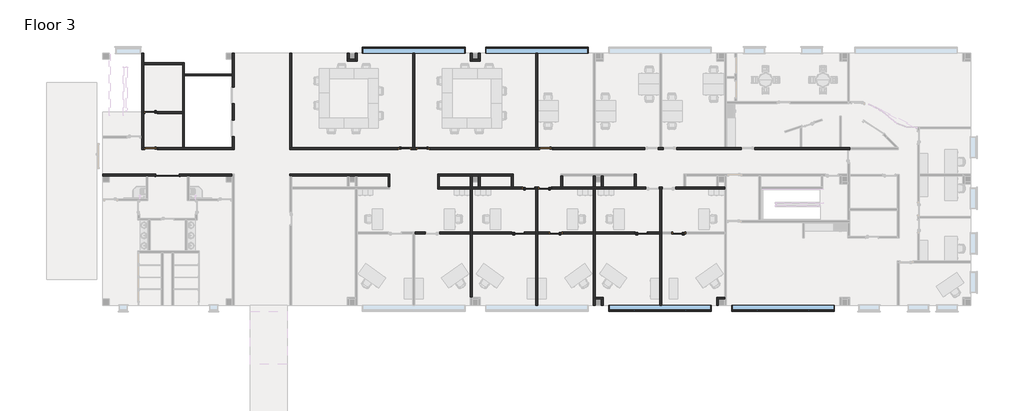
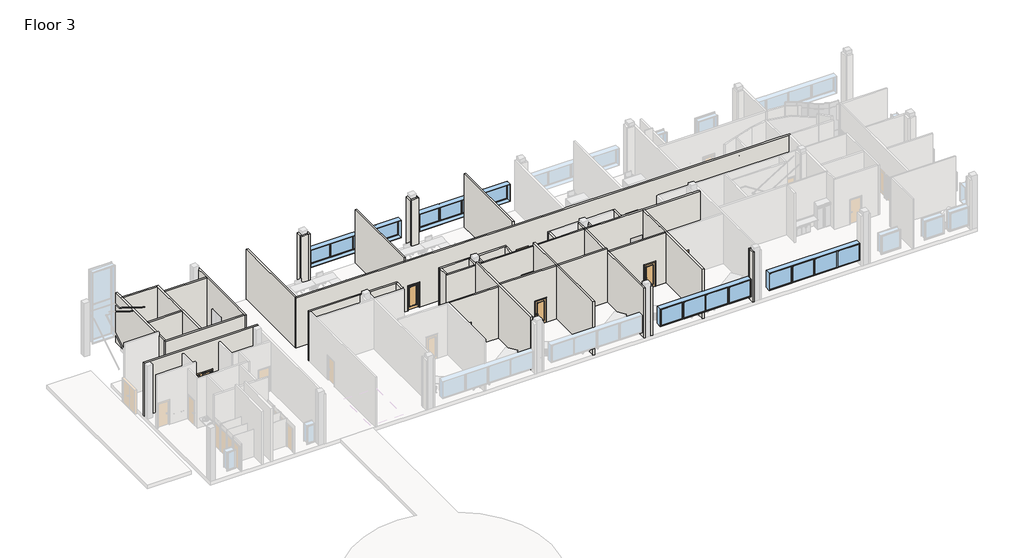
# One storey, part 2 of 6: 42 walls, 12 doors, 4 windows.
"""IFC4 building model written with IfcOpenShell, lengths in millimetres."""

from ifc_helpers import new_model, si_unit, frame, origin, place, context, project, spatial, polyline, outline, extrude, faceted_brep, transform, mapped, element, save
from components import door_f1125a27, door_36f17018, door_4cfbdd5f, door_4a7c4c71, window_casement_multi_sash_horizontal_25_x_5ft_0e5d08e3

model = new_model("IFC4")

# Units and contexts
model_context = context("Model", 3, world=origin())
ifc_project = project(units=[si_unit("LENGTHUNIT", "METRE", prefix="MILLI")], contexts=[model_context])

# Site, building, storey
site = spatial("IfcSite", under=ifc_project)
building = spatial("IfcBuilding", under=site)
storey = spatial("IfcBuildingStorey", under=building, Name="Floor 3", Elevation=10210.8)

# Doors
placement = place(None, origin())
door_shape = door_f1125a27(model_context)
element("IfcDoor", 1, ObjectType="Dbl Acting Dbl Glass 1 : 68\" x 84\"", at=placement, inside=storey, context=model_context, shape_type="MappedRepresentation", body=[
    mapped(door_shape, transform((1836.7692024, 48316.361889, 10210.8), x_axis=(-1.0, 0.0, 0.0), y_axis=(0.0, -1.0, 0.0), z_axis=(0.0, 0.0, 1.0))),
])
door_2_shape = door_36f17018(model_context)
element("IfcDoor", 2, ObjectType="Door-Passage-Single-Flush : 36\" x 84\"", at=placement, inside=storey, context=model_context, shape_type="MappedRepresentation", body=[
    mapped(door_2_shape, transform((617.5692024, 50253.111889, 10210.8), x_axis=(-1.0, 0.0, 0.0), y_axis=(0.0, -1.0, 0.0), z_axis=(0.0, 0.0, 1.0))),
])
element("IfcDoor", 3, ObjectType="Door-Passage-Single-Flush : 36\" x 84\"", at=placement, inside=storey, context=model_context, shape_type="MappedRepresentation", body=[
    mapped(door_2_shape, transform((617.5692024, 52945.511889, 10210.8), x_axis=(-1.0, 0.0, 0.0), y_axis=(0.0, -1.0, 0.0), z_axis=(0.0, 0.0, 1.0))),
])
element("IfcDoor", 4, ObjectType="Door-Passage-Single-Flush : 36\" x 84\"", at=placement, inside=storey, context=model_context, shape_type="MappedRepresentation", body=[
    mapped(door_2_shape, transform((29954.5692024, 50253.111889, 10210.8), x_axis=(-1.0, 0.0, 0.0), y_axis=(0.0, -1.0, 0.0), z_axis=(0.0, 0.0, 1.0))),
])
door_3_shape = door_4cfbdd5f(model_context)
element("IfcDoor", 5, ObjectType="Door-Passage-Single-Full_Lite : 36\" x 84\"", at=placement, inside=storey, context=model_context, shape_type="MappedRepresentation", body=[
    mapped(door_3_shape, transform((37015.7692024, 43985.661889, 10210.8), x_axis=(1.0, 0.0, 0.0), y_axis=(0.0, 1.0, 0.0), z_axis=(0.0, 0.0, 1.0))),
])
element("IfcDoor", 6, ObjectType="Door-Passage-Single-Full_Lite : 36\" x 84\"", at=placement, inside=storey, context=model_context, shape_type="MappedRepresentation", body=[
    mapped(door_3_shape, transform((27871.7692024, 43985.661889, 10210.8), x_axis=(1.0, 0.0, 0.0), y_axis=(0.0, 1.0, 0.0), z_axis=(0.0, 0.0, 1.0))),
])
element("IfcDoor", 7, ObjectType="Door-Passage-Single-Full_Lite : 36\" x 84\"", at=placement, inside=storey, context=model_context, shape_type="MappedRepresentation", body=[
    mapped(door_3_shape, transform((20810.5692024, 50253.111889, 10210.8), x_axis=(-1.0, 0.0, 0.0), y_axis=(0.0, -1.0, 0.0), z_axis=(0.0, 0.0, 1.0))),
])
element("IfcDoor", 8, ObjectType="Door-Passage-Single-Full_Lite : 36\" x 84\"", at=placement, inside=storey, context=model_context, shape_type="MappedRepresentation", body=[
    mapped(door_3_shape, transform((28659.1692024, 47338.461889, 10210.8), x_axis=(1.0, 0.0, 0.0), y_axis=(0.0, 1.0, 0.0), z_axis=(0.0, 0.0, 1.0))),
])
door_4_shape = door_4a7c4c71(model_context)
element("IfcDoor", 9, ObjectType="Door-Passage-Single-Full_Lite : 36\" x 84\"", at=placement, inside=storey, context=model_context, shape_type="MappedRepresentation", body=[
    mapped(door_4_shape, transform((39809.7692024, 43985.661889, 10210.8), x_axis=(-1.0, 0.0, 0.0), y_axis=(0.0, -1.0, 0.0), z_axis=(0.0, 0.0, 1.0))),
])
element("IfcDoor", 10, ObjectType="Door-Passage-Single-Full_Lite : 36\" x 84\"", at=placement, inside=storey, context=model_context, shape_type="MappedRepresentation", body=[
    mapped(door_4_shape, transform((30665.7692024, 43985.661889, 10210.8), x_axis=(-1.0, 0.0, 0.0), y_axis=(0.0, -1.0, 0.0), z_axis=(0.0, 0.0, 1.0))),
])
element("IfcDoor", 11, ObjectType="Door-Passage-Single-Full_Lite : 36\" x 84\"", at=placement, inside=storey, context=model_context, shape_type="MappedRepresentation", body=[
    mapped(door_4_shape, transform((19438.9692024, 50253.111889, 10210.8), x_axis=(1.0, 0.0, 0.0), y_axis=(0.0, 1.0, 0.0), z_axis=(0.0, 0.0, 1.0))),
])
element("IfcDoor", 12, ObjectType="Door-Passage-Single-Full_Lite : 36\" x 84\"", at=placement, inside=storey, context=model_context, shape_type="MappedRepresentation", body=[
    mapped(door_4_shape, transform((29878.3692024, 47338.461889, 10210.8), x_axis=(-1.0, 0.0, 0.0), y_axis=(0.0, -1.0, 0.0), z_axis=(0.0, 0.0, 1.0))),
])

# Walls
element("IfcWall", 13, ObjectType="Interior - 5 1/2\" Partition (1-hr)", at=placement, inside=storey, context=model_context, shape_type="Brep", body=[
    faceted_brep([(973.1692024, 48360.811889, 12344.4), (973.1692024, 48360.811889, 10210.8), (-2965.7977165, 48360.811889, 10210.8), (-2965.7977165, 48360.811889, 14935.2), (6637.3692024, 48360.811889, 14935.2), (6637.3692024, 48360.811889, 14630.4), (6637.3692024, 48360.811889, 10210.8), (2700.3692024, 48360.811889, 10210.8), (2700.3692024, 48360.811889, 12344.4), (-2965.7977165, 48221.111889, 10210.8), (242.9192024, 48221.111889, 10210.8), (382.6192024, 48221.111889, 10210.8), (973.1692024, 48221.111889, 10210.8), (973.1692024, 48221.111889, 12344.4), (2700.3692024, 48221.111889, 12344.4), (2700.3692024, 48221.111889, 10210.8), (3290.9192024, 48221.111889, 10210.8), (3430.6192024, 48221.111889, 10210.8), (6637.3692024, 48221.111889, 10210.8), (6637.3692024, 48221.111889, 14935.2), (-2965.7977165, 48221.111889, 14935.2)], [[[0, 1, 2, 3, 4, 5, 6, 7, 8]], [[9, 10, 11, 12, 13, 14, 15, 16, 17, 18, 19, 20]], [[2, 1, 12, 11, 10, 9]], [[7, 6, 18, 17, 16, 15]], [[4, 3, 20, 19]], [[6, 5, 4, 19, 18]], [[3, 2, 9, 20]], [[13, 12, 1, 0]], [[14, 13, 0, 8]], [[15, 14, 8, 7]]]),
])
element("IfcWall", 14, ObjectType="Interior - 5 1/2\" Partition (1-hr)", at=placement, inside=storey, context=model_context, shape_type="Brep", body=[
    faceted_brep([(6637.3692024, 53605.911889, 12369.8), (6637.3692024, 53605.911889, 10210.8), (6637.3692024, 52399.411889, 10210.8), (6637.3692024, 52399.411889, 12369.8), (6637.3692024, 51167.511889, 12369.8), (6637.3692024, 51167.511889, 10210.8), (6637.3692024, 50329.311889, 10210.8), (6637.3692024, 50189.611889, 10210.8), (6637.3692024, 50189.611889, 14630.4), (6637.3692024, 50329.311889, 14630.4), (6637.3692024, 55676.011889, 14630.4), (6637.3692024, 55815.711889, 14630.4), (6637.3692024, 57366.699389, 14630.4), (6637.3692024, 57366.699389, 10210.8), (6637.3692024, 55815.711889, 10210.8), (6637.3692024, 55676.011889, 10210.8), (6637.3692024, 54837.811889, 10210.8), (6637.3692024, 54837.811889, 12369.8), (6777.0692024, 52399.411889, 10210.8), (6777.0692024, 53605.911889, 10210.8), (6777.0692024, 53605.911889, 12369.8), (6777.0692024, 54837.811889, 12369.8), (6777.0692024, 54837.811889, 10210.8), (6777.0692024, 57366.699389, 10210.8), (6777.0692024, 57366.699389, 14630.4), (6777.0692024, 50189.611889, 14630.4), (6777.0692024, 50189.611889, 10210.8), (6777.0692024, 51167.511889, 10210.8), (6777.0692024, 51167.511889, 12369.8), (6777.0692024, 52399.411889, 12369.8)], [[[0, 1, 2, 3, 4, 5, 6, 7, 8, 9, 10, 11, 12, 13, 14, 15, 16, 17]], [[18, 19, 20, 21, 22, 23, 24, 25, 26, 27, 28, 29]], [[7, 6, 5, 27, 26]], [[2, 1, 19, 18]], [[16, 15, 14, 13, 23, 22]], [[8, 7, 26, 25]], [[13, 12, 24, 23]], [[12, 11, 10, 9, 8, 25, 24]], [[28, 27, 5, 4]], [[29, 28, 4, 3]], [[18, 29, 3, 2]], [[20, 19, 1, 0]], [[21, 20, 0, 17]], [[22, 21, 17, 16]]]),
])
element("IfcWall", 15, ObjectType="Interior - 5 1/2\" Partition (1-hr)", at=placement, inside=storey, context=model_context, shape_type="Brep", body=[
    faceted_brep([(109.5692024, 50329.311889, 12446.0), (109.5692024, 50329.311889, 10210.8), (77.8192024, 50329.311889, 10210.8), (-61.8807976, 50329.311889, 10210.8), (-61.8807976, 50329.311889, 14630.4), (77.8192024, 50329.311889, 14630.4), (2954.3692024, 50329.311889, 14630.4), (3094.0692024, 50329.311889, 14630.4), (6637.3692024, 50329.311889, 14630.4), (6637.3692024, 50329.311889, 10210.8), (3094.0692024, 50329.311889, 10210.8), (2954.3692024, 50329.311889, 10210.8), (1125.5692024, 50329.311889, 10210.8), (1125.5692024, 50329.311889, 12446.0), (-61.8807976, 50189.611889, 10210.8), (109.5692024, 50189.611889, 10210.8), (109.5692024, 50189.611889, 12446.0), (1125.5692024, 50189.611889, 12446.0), (1125.5692024, 50189.611889, 10210.8), (6637.3692024, 50189.611889, 10210.8), (6637.3692024, 50189.611889, 14630.4), (-61.8807976, 50189.611889, 14630.4)], [[[0, 1, 2, 3, 4, 5, 6, 7, 8, 9, 10, 11, 12, 13]], [[14, 15, 16, 17, 18, 19, 20, 21]], [[3, 2, 1, 15, 14]], [[12, 11, 10, 9, 19, 18]], [[9, 8, 20, 19]], [[4, 3, 14, 21]], [[8, 7, 6, 5, 4, 21, 20]], [[16, 15, 1, 0]], [[17, 16, 0, 13]], [[18, 17, 13, 12]]]),
])
element("IfcWall", 16, ObjectType="Interior - 5 1/2\" Partition (1-hr)", at=placement, inside=storey, context=model_context, shape_type="Brep", body=[
    faceted_brep([(77.8192024, 50329.311889, 10210.8), (77.8192024, 52882.011889, 10210.8), (77.8192024, 53021.711889, 10210.8), (77.8192024, 56514.211889, 10210.8), (77.8192024, 56653.911889, 10210.8), (77.8192024, 57366.699389, 10210.8), (77.8192024, 57366.699389, 14630.4), (77.8192024, 56653.911889, 14630.4), (77.8192024, 56514.211889, 14630.4), (77.8192024, 53021.711889, 14630.4), (77.8192024, 52882.011889, 14630.4), (77.8192024, 50329.311889, 14630.4), (-61.8807976, 50329.311889, 10210.8), (-61.8807976, 50329.311889, 14630.4), (-61.8807976, 52970.911889, 14630.4), (-61.8807976, 56653.911889, 14630.4), (-61.8807976, 57366.699389, 14630.4), (-61.8807976, 57366.699389, 10210.8), (-61.8807976, 51192.911889, 10210.8), (-61.8807976, 51053.211889, 10210.8)], [[[0, 1, 2, 3, 4, 5, 6, 7, 8, 9, 10, 11]], [[12, 13, 14, 15, 16, 17, 18, 19]], [[5, 4, 3, 2, 1, 0, 12, 19, 18, 17]], [[0, 11, 13, 12]], [[6, 5, 17, 16]], [[7, 6, 16, 15]], [[11, 10, 9, 8, 7, 15, 14, 13]]]),
])
element("IfcWall", 17, ObjectType="Interior - 5 1/2\" Partition (1-hr)", at=placement, inside=storey, context=model_context, shape_type="Brep", body=[
    faceted_brep([(3094.0692024, 50329.311889, 10210.8), (3094.0692024, 55676.011889, 10210.8), (3094.0692024, 55815.711889, 10210.8), (3094.0692024, 56653.911889, 10210.8), (3094.0692024, 56653.911889, 14630.4), (3094.0692024, 55815.711889, 14630.4), (3094.0692024, 55676.011889, 14630.4), (3094.0692024, 50329.311889, 14630.4), (2954.3692024, 50329.311889, 10210.8), (2954.3692024, 50329.311889, 14630.4), (2954.3692024, 52882.011889, 14630.4), (2954.3692024, 53021.711889, 14630.4), (2954.3692024, 56514.211889, 14630.4), (2954.3692024, 56653.911889, 14630.4), (2954.3692024, 56653.911889, 10210.8), (2954.3692024, 56514.211889, 10210.8), (2954.3692024, 53021.711889, 10210.8), (2954.3692024, 52882.011889, 10210.8)], [[[0, 1, 2, 3, 4, 5, 6, 7]], [[8, 9, 10, 11, 12, 13, 14, 15, 16, 17]], [[3, 2, 1, 0, 8, 17, 16, 15, 14]], [[4, 3, 14, 13]], [[0, 7, 9, 8]], [[7, 6, 5, 4, 13, 12, 11, 10, 9]]]),
])
element("IfcWall", 18, ObjectType="Interior - 5 1/2\" Partition (1-hr)", at=placement, inside=storey, context=model_context, shape_type="SweptSolid", body=[
    extrude(outline(polyline([(77.8192024, 56653.911889), (2954.3692024, 56653.911889), (2954.3692024, 56514.211889), (77.8192024, 56514.211889), (77.8192024, 56653.911889)])), frame((0.0, 0.0, 10210.8), z_axis=(0.0, 0.0, 1.0), x_axis=(1.0, 0.0, 0.0)), (0.0, 0.0, 1.0), 4419.6),
])
element("IfcWall", 19, ObjectType="Interior - 5 1/2\" Partition (1-hr)", at=placement, inside=storey, context=model_context, shape_type="SweptSolid", body=[
    extrude(outline(polyline([(6637.3692024, 55676.011889), (3094.0692024, 55676.011889), (3094.0692024, 55815.711889), (6637.3692024, 55815.711889), (6637.3692024, 55676.011889)])), frame((0.0, 0.0, 10210.8), z_axis=(0.0, 0.0, 1.0), x_axis=(1.0, 0.0, 0.0)), (0.0, 0.0, 1.0), 4419.6),
])
element("IfcWall", 20, ObjectType="Interior - 5 1/2\" Partition (1-hr)", at=placement, inside=storey, context=model_context, shape_type="SweptSolid", body=[
    extrude(outline(polyline([(10210.8, 77.8192024), (10210.8, 109.5692024), (12446.0, 109.5692024), (12446.0, 1125.5692024), (10210.8, 1125.5692024), (10210.8, 2954.3692024), (14630.4, 2954.3692024), (14630.4, 77.8192024), (10210.8, 77.8192024)])), frame((0.0, 52882.011889, 0.0), z_axis=(0.0, 1.0, 0.0), x_axis=(0.0, 0.0, 1.0)), (0.0, 0.0, 1.0), 139.7),
])
element("IfcWall", 21, ObjectType="Interior - 5 1/2\" Partition (1-hr)", at=placement, inside=storey, context=model_context, shape_type="Brep", body=[
    faceted_brep([(10910.9192024, 48221.111889, 10210.8), (11050.6192024, 48221.111889, 10210.8), (15184.4692024, 48221.111889, 10210.8), (15324.1692024, 48221.111889, 10210.8), (15781.3692024, 48221.111889, 10210.8), (15921.0692024, 48221.111889, 10210.8), (18219.7692024, 48221.111889, 10210.8), (18359.4692024, 48221.111889, 10210.8), (18359.4692024, 48221.111889, 14630.4), (18219.7692024, 48221.111889, 14630.4), (15921.0692024, 48221.111889, 14630.4), (15781.3692024, 48221.111889, 14630.4), (15324.1692024, 48221.111889, 14630.4), (15184.4692024, 48221.111889, 14630.4), (11050.6192024, 48221.111889, 14630.4), (10910.9192024, 48221.111889, 14630.4), (10910.9192024, 48360.811889, 10210.8), (10910.9192024, 48360.811889, 14630.4), (18359.4692024, 48360.811889, 14630.4), (18359.4692024, 48360.811889, 10210.8)], [[[0, 1, 2, 3, 4, 5, 6, 7, 8, 9, 10, 11, 12, 13, 14, 15]], [[16, 17, 18, 19]], [[7, 6, 5, 4, 3, 2, 1, 0, 16, 19]], [[0, 15, 17, 16]], [[8, 7, 19, 18]], [[15, 14, 13, 12, 11, 10, 9, 8, 18, 17]]]),
])
element("IfcWall", 22, ObjectType="Interior - 5 1/2\" Partition (1-hr)", at=placement, inside=storey, context=model_context, shape_type="Brep", body=[
    faceted_brep([(29446.5692024, 50329.311889, 12446.0), (29446.5692024, 50329.311889, 10210.8), (29338.6192024, 50329.311889, 10210.8), (29198.9192024, 50329.311889, 10210.8), (21318.5692024, 50329.311889, 10210.8), (21318.5692024, 50329.311889, 12446.0), (20302.5692024, 50329.311889, 12446.0), (20302.5692024, 50329.311889, 10210.8), (20194.6192024, 50329.311889, 10210.8), (20054.9192024, 50329.311889, 10210.8), (19946.9692024, 50329.311889, 10210.8), (19946.9692024, 50329.311889, 12446.0), (18930.9692024, 50329.311889, 12446.0), (18930.9692024, 50329.311889, 10210.8), (11050.6192024, 50329.311889, 10210.8), (10910.9192024, 50329.311889, 10210.8), (10910.9192024, 50329.311889, 14630.4), (11050.6192024, 50329.311889, 14630.4), (33472.4692024, 50329.311889, 14630.4), (33612.1692024, 50329.311889, 14630.4), (38393.7192024, 50329.311889, 14630.4), (38533.4192024, 50329.311889, 14630.4), (43213.3692024, 50329.311889, 14630.4), (43353.0692024, 50329.311889, 14630.4), (48815.6567024, 50329.311889, 14630.4), (48939.4817024, 50329.311889, 14630.4), (51768.4067024, 50329.311889, 14630.4), (51892.2317024, 50329.311889, 14630.4), (52497.0692024, 50329.311889, 14630.4), (52497.0692024, 50329.311889, 10210.8), (51892.2317024, 50329.311889, 10210.8), (51768.4067024, 50329.311889, 10210.8), (48939.4817024, 50329.311889, 10210.8), (48815.6567024, 50329.311889, 10210.8), (45467.6192024, 50329.311889, 10210.8), (45467.6192024, 50329.311889, 12446.0), (44451.6192024, 50329.311889, 12446.0), (44451.6192024, 50329.311889, 10210.8), (43353.0692024, 50329.311889, 10210.8), (43213.3692024, 50329.311889, 10210.8), (39657.3692024, 50329.311889, 10210.8), (39657.3692024, 50329.311889, 12446.0), (38641.3692024, 50329.311889, 12446.0), (38641.3692024, 50329.311889, 10210.8), (38533.4192024, 50329.311889, 10210.8), (38393.7192024, 50329.311889, 10210.8), (38285.7692024, 50329.311889, 10210.8), (38285.7692024, 50329.311889, 12446.0), (37269.7692024, 50329.311889, 12446.0), (37269.7692024, 50329.311889, 10210.8), (33612.1692024, 50329.311889, 10210.8), (33472.4692024, 50329.311889, 10210.8), (30462.5692024, 50329.311889, 10210.8), (30462.5692024, 50329.311889, 12446.0), (21318.5692024, 50189.611889, 10210.8), (29446.5692024, 50189.611889, 10210.8), (29446.5692024, 50189.611889, 12446.0), (30462.5692024, 50189.611889, 12446.0), (30462.5692024, 50189.611889, 10210.8), (37269.7692024, 50189.611889, 10210.8), (37269.7692024, 50189.611889, 12446.0), (38285.7692024, 50189.611889, 12446.0), (38285.7692024, 50189.611889, 10210.8), (38641.3692024, 50189.611889, 10210.8), (38641.3692024, 50189.611889, 12446.0), (39657.3692024, 50189.611889, 12446.0), (39657.3692024, 50189.611889, 10210.8), (44451.6192024, 50189.611889, 10210.8), (44451.6192024, 50189.611889, 12446.0), (45467.6192024, 50189.611889, 12446.0), (45467.6192024, 50189.611889, 10210.8), (52357.3692024, 50189.611889, 10210.8), (52497.0692024, 50189.611889, 10210.8), (52497.0692024, 50189.611889, 14630.4), (52357.3692024, 50189.611889, 14630.4), (10910.9192024, 50189.611889, 14630.4), (10910.9192024, 50189.611889, 10210.8), (18930.9692024, 50189.611889, 10210.8), (18930.9692024, 50189.611889, 12446.0), (19946.9692024, 50189.611889, 12446.0), (19946.9692024, 50189.611889, 10210.8), (20302.5692024, 50189.611889, 10210.8), (20302.5692024, 50189.611889, 12446.0), (21318.5692024, 50189.611889, 12446.0), (52497.0692024, 50205.486889, 10210.8), (52497.0692024, 50205.486889, 14630.4)], [[[0, 1, 2, 3, 4, 5, 6, 7, 8, 9, 10, 11, 12, 13, 14, 15, 16, 17, 18, 19, 20, 21, 22, 23, 24, 25, 26, 27, 28, 29, 30, 31, 32, 33, 34, 35, 36, 37, 38, 39, 40, 41, 42, 43, 44, 45, 46, 47, 48, 49, 50, 51, 52, 53]], [[54, 55, 56, 57, 58, 59, 60, 61, 62, 63, 64, 65, 66, 67, 68, 69, 70, 71, 72, 73, 74, 75, 76, 77, 78, 79, 80, 81, 82, 83]], [[46, 45, 44, 43, 63, 62]], [[10, 9, 8, 7, 81, 80]], [[40, 39, 38, 37, 67, 66]], [[34, 33, 32, 31, 30, 29, 84, 72, 71, 70]], [[77, 76, 15, 14, 13]], [[4, 3, 2, 1, 55, 54]], [[52, 51, 50, 49, 59, 58]], [[76, 75, 16, 15]], [[75, 74, 73, 85, 28, 27, 26, 25, 24, 23, 22, 21, 20, 19, 18, 17, 16]], [[73, 72, 84, 29, 28, 85]], [[47, 46, 62, 61]], [[48, 47, 61, 60]], [[49, 48, 60, 59]], [[64, 63, 43, 42]], [[65, 64, 42, 41]], [[66, 65, 41, 40]], [[68, 67, 37, 36]], [[69, 68, 36, 35]], [[70, 69, 35, 34]], [[11, 10, 80, 79]], [[12, 11, 79, 78]], [[13, 12, 78, 77]], [[82, 81, 7, 6]], [[83, 82, 6, 5]], [[54, 83, 5, 4]], [[56, 55, 1, 0]], [[57, 56, 0, 53]], [[58, 57, 53, 52]]]),
])
element("IfcWall", 23, ObjectType="Interior - 5 1/2\" Partition (1-hr)", at=placement, inside=storey, context=model_context, shape_type="SweptSolid", body=[
    extrude(outline(polyline([(11050.6192024, 57366.699389), (11050.6192024, 50329.311889), (10910.9192024, 50329.311889), (10910.9192024, 57366.699389), (11050.6192024, 57366.699389)])), frame((0.0, 0.0, 10210.8), z_axis=(0.0, 0.0, 1.0), x_axis=(1.0, 0.0, 0.0)), (0.0, 0.0, 1.0), 4419.6),
])
element("IfcWall", 24, ObjectType="Interior - 5 1/2\" Partition (1-hr)", at=placement, inside=storey, context=model_context, shape_type="Brep", body=[
    faceted_brep([(43213.3692024, 39216.811889, 10210.8), (42616.4692024, 39216.811889, 10210.8), (42616.4692024, 39216.811889, 14630.4), (43213.3692024, 39216.811889, 14630.4), (43213.3692024, 39077.111889, 10210.8), (43213.3692024, 39077.111889, 14630.4), (42756.1692024, 39077.111889, 14630.4), (42616.4692024, 39077.111889, 14630.4), (42616.4692024, 39077.111889, 10210.8), (42756.1692024, 39077.111889, 10210.8)], [[[0, 1, 2, 3]], [[4, 5, 6, 7, 8, 9]], [[1, 0, 4, 9, 8]], [[2, 1, 8, 7]], [[0, 3, 5, 4]], [[3, 2, 7, 6, 5]]]),
])
element("IfcWall", 25, ObjectType="Interior - 5 1/2\" Partition (1-hr)", at=placement, inside=storey, context=model_context, shape_type="SweptSolid", body=[
    extrude(outline(polyline([(42616.4692024, 38618.324389), (42616.4692024, 39077.111889), (42756.1692024, 39077.111889), (42756.1692024, 38618.324389), (42616.4692024, 38618.324389)])), frame((0.0, 0.0, 10210.8), z_axis=(0.0, 0.0, 1.0), x_axis=(1.0, 0.0, 0.0)), (0.0, 0.0, 1.0), 4419.6),
])
element("IfcWall", 26, ObjectType="Interior - 5 1/2\" Partition (1-hr)", at=placement, inside=storey, context=model_context, shape_type="Brep", body=[
    faceted_brep([(15781.3692024, 57366.699389, 10210.8), (15781.3692024, 56907.911889, 10210.8), (15781.3692024, 56768.211889, 10210.8), (15781.3692024, 56768.211889, 14630.4), (15781.3692024, 56907.911889, 14630.4), (15781.3692024, 57366.699389, 14630.4), (15921.0692024, 57366.699389, 10210.8), (15921.0692024, 57366.699389, 14630.4), (15921.0692024, 56768.211889, 14630.4), (15921.0692024, 56768.211889, 10210.8)], [[[0, 1, 2, 3, 4, 5]], [[6, 7, 8, 9]], [[2, 1, 0, 6, 9]], [[3, 2, 9, 8]], [[0, 5, 7, 6]], [[5, 4, 3, 8, 7]]]),
])
element("IfcWall", 27, ObjectType="Interior - 5 1/2\" Partition (1-hr)", at=placement, inside=storey, context=model_context, shape_type="Brep", body=[
    faceted_brep([(15781.3692024, 56907.911889, 10210.8), (15324.1692024, 56907.911889, 10210.8), (15184.4692024, 56907.911889, 10210.8), (15184.4692024, 56907.911889, 14630.4), (15324.1692024, 56907.911889, 14630.4), (15781.3692024, 56907.911889, 14630.4), (15781.3692024, 56768.211889, 10210.8), (15781.3692024, 56768.211889, 14630.4), (15184.4692024, 56768.211889, 14630.4), (15184.4692024, 56768.211889, 10210.8)], [[[0, 1, 2, 3, 4, 5]], [[6, 7, 8, 9]], [[2, 1, 0, 6, 9]], [[3, 2, 9, 8]], [[0, 5, 7, 6]], [[5, 4, 3, 8, 7]]]),
])
element("IfcWall", 28, ObjectType="Interior - 5 1/2\" Partition (1-hr)", at=placement, inside=storey, context=model_context, shape_type="SweptSolid", body=[
    extrude(outline(polyline([(15324.1692024, 57366.699389), (15324.1692024, 56907.911889), (15184.4692024, 56907.911889), (15184.4692024, 57366.699389), (15324.1692024, 57366.699389)])), frame((0.0, 0.0, 10210.8), z_axis=(0.0, 0.0, 1.0), x_axis=(1.0, 0.0, 0.0)), (0.0, 0.0, 1.0), 4419.6),
])
element("IfcWall", 29, ObjectType="Interior - 5 1/2\" Partition (1-hr)", at=placement, inside=storey, context=model_context, shape_type="Brep", body=[
    faceted_brep([(29167.1692024, 47262.261889, 12446.0), (29167.1692024, 47262.261889, 10210.8), (29198.9192024, 47262.261889, 10210.8), (29338.6192024, 47262.261889, 10210.8), (29370.3692024, 47262.261889, 10210.8), (29370.3692024, 47262.261889, 12446.0), (30386.3692024, 47262.261889, 12446.0), (30386.3692024, 47262.261889, 10210.8), (33472.4692024, 47262.261889, 10210.8), (33612.1692024, 47262.261889, 10210.8), (37345.9692024, 47262.261889, 10210.8), (37345.9692024, 47262.261889, 12446.0), (38361.9692024, 47262.261889, 12446.0), (38361.9692024, 47262.261889, 10210.8), (38393.7192024, 47262.261889, 10210.8), (38533.4192024, 47262.261889, 10210.8), (38565.1692024, 47262.261889, 10210.8), (38565.1692024, 47262.261889, 12446.0), (39581.1692024, 47262.261889, 12446.0), (39581.1692024, 47262.261889, 10210.8), (43213.3692024, 47262.261889, 10210.8), (43213.3692024, 47262.261889, 14630.4), (38533.4192024, 47262.261889, 14630.4), (38393.7192024, 47262.261889, 14630.4), (33612.1692024, 47262.261889, 14630.4), (33472.4692024, 47262.261889, 14630.4), (21890.0692024, 47262.261889, 14630.4), (21890.0692024, 47262.261889, 10210.8), (24328.4692024, 47262.261889, 10210.8), (24468.1692024, 47262.261889, 10210.8), (28151.1692024, 47262.261889, 10210.8), (28151.1692024, 47262.261889, 12446.0), (29370.3692024, 47401.961889, 10210.8), (29167.1692024, 47401.961889, 10210.8), (29167.1692024, 47401.961889, 12446.0), (28151.1692024, 47401.961889, 12446.0), (28151.1692024, 47401.961889, 10210.8), (27503.4692024, 47401.961889, 10210.8), (27363.7692024, 47401.961889, 10210.8), (25065.0692024, 47401.961889, 10210.8), (24925.3692024, 47401.961889, 10210.8), (24468.1692024, 47401.961889, 10210.8), (24328.4692024, 47401.961889, 10210.8), (22029.7692024, 47401.961889, 10210.8), (21890.0692024, 47401.961889, 10210.8), (21890.0692024, 47401.961889, 14630.4), (22029.7692024, 47401.961889, 14630.4), (24328.4692024, 47401.961889, 14630.4), (24468.1692024, 47401.961889, 14630.4), (24925.3692024, 47401.961889, 14630.4), (25065.0692024, 47401.961889, 14630.4), (27363.7692024, 47401.961889, 14630.4), (27503.4692024, 47401.961889, 14630.4), (31034.0692024, 47401.961889, 14630.4), (31173.7692024, 47401.961889, 14630.4), (33472.4692024, 47401.961889, 14630.4), (33612.1692024, 47401.961889, 14630.4), (34069.3692024, 47401.961889, 14630.4), (34209.0692024, 47401.961889, 14630.4), (36507.7692024, 47401.961889, 14630.4), (36647.4692024, 47401.961889, 14630.4), (40178.0692024, 47401.961889, 14630.4), (40317.7692024, 47401.961889, 14630.4), (42616.4692024, 47401.961889, 14630.4), (42756.1692024, 47401.961889, 14630.4), (43213.3692024, 47401.961889, 14630.4), (43213.3692024, 47401.961889, 10210.8), (42756.1692024, 47401.961889, 10210.8), (42616.4692024, 47401.961889, 10210.8), (40317.7692024, 47401.961889, 10210.8), (40178.0692024, 47401.961889, 10210.8), (39581.1692024, 47401.961889, 10210.8), (39581.1692024, 47401.961889, 12446.0), (38565.1692024, 47401.961889, 12446.0), (38565.1692024, 47401.961889, 10210.8), (38361.9692024, 47401.961889, 10210.8), (38361.9692024, 47401.961889, 12446.0), (37345.9692024, 47401.961889, 12446.0), (37345.9692024, 47401.961889, 10210.8), (36647.4692024, 47401.961889, 10210.8), (36507.7692024, 47401.961889, 10210.8), (34209.0692024, 47401.961889, 10210.8), (34069.3692024, 47401.961889, 10210.8), (33612.1692024, 47401.961889, 10210.8), (33472.4692024, 47401.961889, 10210.8), (31173.7692024, 47401.961889, 10210.8), (31034.0692024, 47401.961889, 10210.8), (30386.3692024, 47401.961889, 10210.8), (30386.3692024, 47401.961889, 12446.0), (29370.3692024, 47401.961889, 12446.0)], [[[0, 1, 2, 3, 4, 5, 6, 7, 8, 9, 10, 11, 12, 13, 14, 15, 16, 17, 18, 19, 20, 21, 22, 23, 24, 25, 26, 27, 28, 29, 30, 31]], [[32, 33, 34, 35, 36, 37, 38, 39, 40, 41, 42, 43, 44, 45, 46, 47, 48, 49, 50, 51, 52, 53, 54, 55, 56, 57, 58, 59, 60, 61, 62, 63, 64, 65, 66, 67, 68, 69, 70, 71, 72, 73, 74, 75, 76, 77, 78, 79, 80, 81, 82, 83, 84, 85, 86, 87, 88, 89]], [[75, 74, 16, 15, 14, 13]], [[4, 3, 2, 1, 33, 32]], [[71, 70, 69, 68, 67, 66, 20, 19]], [[87, 86, 85, 84, 83, 82, 81, 80, 79, 78, 10, 9, 8, 7]], [[30, 29, 28, 27, 44, 43, 42, 41, 40, 39, 38, 37, 36]], [[66, 65, 21, 20]], [[65, 64, 63, 62, 61, 60, 59, 58, 57, 56, 55, 54, 53, 52, 51, 50, 49, 48, 47, 46, 45, 26, 25, 24, 23, 22, 21]], [[45, 44, 27, 26]], [[76, 75, 13, 12]], [[77, 76, 12, 11]], [[78, 77, 11, 10]], [[17, 16, 74, 73]], [[18, 17, 73, 72]], [[19, 18, 72, 71]], [[5, 4, 32, 89]], [[6, 5, 89, 88]], [[7, 6, 88, 87]], [[34, 33, 1, 0]], [[35, 34, 0, 31]], [[36, 35, 31, 30]]]),
])
element("IfcWall", 30, ObjectType="Interior - 5 1/2\" Partition (1-hr)", at=placement, inside=storey, context=model_context, shape_type="SweptSolid", body=[
    extrude(outline(polyline([(34209.0692024, 48221.111889), (34209.0692024, 47401.961889), (34069.3692024, 47401.961889), (34069.3692024, 48221.111889), (34209.0692024, 48221.111889)])), frame((0.0, 0.0, 10210.8), z_axis=(0.0, 0.0, 1.0), x_axis=(1.0, 0.0, 0.0)), (0.0, 0.0, 1.0), 4419.6),
])
element("IfcWall", 31, ObjectType="Interior - 5 1/2\" Partition (1-hr)", at=placement, inside=storey, context=model_context, shape_type="SweptSolid", body=[
    extrude(outline(polyline([(33612.1692024, 48221.111889), (33612.1692024, 47401.961889), (33472.4692024, 47401.961889), (33472.4692024, 48221.111889), (33612.1692024, 48221.111889)])), frame((0.0, 0.0, 10210.8), z_axis=(0.0, 0.0, 1.0), x_axis=(1.0, 0.0, 0.0)), (0.0, 0.0, 1.0), 4419.6),
])
element("IfcWall", 32, ObjectType="Interior - 5 1/2\" Partition (1-hr)", at=placement, inside=storey, context=model_context, shape_type="SweptSolid", body=[
    extrude(outline(polyline([(24468.1692024, 48221.111889), (24468.1692024, 47401.961889), (24328.4692024, 47401.961889), (24328.4692024, 48221.111889), (24468.1692024, 48221.111889)])), frame((0.0, 0.0, 10210.8), z_axis=(0.0, 0.0, 1.0), x_axis=(1.0, 0.0, 0.0)), (0.0, 0.0, 1.0), 4419.6),
])
element("IfcWall", 33, ObjectType="Interior - 5 1/2\" Partition (1-hr)", at=placement, inside=storey, context=model_context, shape_type="SweptSolid", body=[
    extrude(outline(polyline([(25065.0692024, 48221.111889), (25065.0692024, 47401.961889), (24925.3692024, 47401.961889), (24925.3692024, 48221.111889), (25065.0692024, 48221.111889)])), frame((0.0, 0.0, 10210.8), z_axis=(0.0, 0.0, 1.0), x_axis=(1.0, 0.0, 0.0)), (0.0, 0.0, 1.0), 4419.6),
])
element("IfcWall", 34, ObjectType="Interior - 5 1/2\" Partition (1-hr)", at=placement, inside=storey, context=model_context, shape_type="SweptSolid", body=[
    extrude(outline(polyline([(18359.4692024, 48221.111889), (18359.4692024, 47401.961889), (18219.7692024, 47401.961889), (18219.7692024, 48221.111889), (18359.4692024, 48221.111889)])), frame((0.0, 0.0, 10210.8), z_axis=(0.0, 0.0, 1.0), x_axis=(1.0, 0.0, 0.0)), (0.0, 0.0, 1.0), 4419.6),
])
element("IfcWall", 35, ObjectType="Interior - 5 1/2\" Partition (1-hr)", at=placement, inside=storey, context=model_context, shape_type="SweptSolid", body=[
    extrude(outline(polyline([(22029.7692024, 48221.111889), (22029.7692024, 47401.961889), (21890.0692024, 47401.961889), (21890.0692024, 48221.111889), (22029.7692024, 48221.111889)])), frame((0.0, 0.0, 10210.8), z_axis=(0.0, 0.0, 1.0), x_axis=(1.0, 0.0, 0.0)), (0.0, 0.0, 1.0), 4419.6),
])
element("IfcWall", 36, ObjectType="Interior - 5 1/2\" Partition (1-hr)", at=placement, inside=storey, context=model_context, shape_type="SweptSolid", body=[
    extrude(outline(polyline([(27503.4692024, 48221.111889), (27503.4692024, 47401.961889), (27363.7692024, 47401.961889), (27363.7692024, 48221.111889), (27503.4692024, 48221.111889)])), frame((0.0, 0.0, 10210.8), z_axis=(0.0, 0.0, 1.0), x_axis=(1.0, 0.0, 0.0)), (0.0, 0.0, 1.0), 4419.6),
])
element("IfcWall", 37, ObjectType="Interior - 5 1/2\" Partition (1-hr)", at=placement, inside=storey, context=model_context, shape_type="SweptSolid", body=[
    extrude(outline(polyline([(31173.7692024, 48221.111889), (31173.7692024, 47401.961889), (31034.0692024, 47401.961889), (31034.0692024, 48221.111889), (31173.7692024, 48221.111889)])), frame((0.0, 0.0, 10210.8), z_axis=(0.0, 0.0, 1.0), x_axis=(1.0, 0.0, 0.0)), (0.0, 0.0, 1.0), 4419.6),
])
element("IfcWall", 38, ObjectType="Interior - 5 1/2\" Partition (1-hr)", at=placement, inside=storey, context=model_context, shape_type="Brep", body=[
    faceted_brep([(21890.0692024, 48221.111889, 10210.8), (22029.7692024, 48221.111889, 10210.8), (24328.4692024, 48221.111889, 10210.8), (24468.1692024, 48221.111889, 10210.8), (24925.3692024, 48221.111889, 10210.8), (25065.0692024, 48221.111889, 10210.8), (27363.7692024, 48221.111889, 10210.8), (27503.4692024, 48221.111889, 10210.8), (27503.4692024, 48221.111889, 14630.4), (27363.7692024, 48221.111889, 14630.4), (25065.0692024, 48221.111889, 14630.4), (24925.3692024, 48221.111889, 14630.4), (24468.1692024, 48221.111889, 14630.4), (24328.4692024, 48221.111889, 14630.4), (22029.7692024, 48221.111889, 14630.4), (21890.0692024, 48221.111889, 14630.4), (21890.0692024, 48360.811889, 10210.8), (21890.0692024, 48360.811889, 14630.4), (27503.4692024, 48360.811889, 14630.4), (27503.4692024, 48360.811889, 10210.8)], [[[0, 1, 2, 3, 4, 5, 6, 7, 8, 9, 10, 11, 12, 13, 14, 15]], [[16, 17, 18, 19]], [[7, 6, 5, 4, 3, 2, 1, 0, 16, 19]], [[0, 15, 17, 16]], [[8, 7, 19, 18]], [[15, 14, 13, 12, 11, 10, 9, 8, 18, 17]]]),
])
element("IfcWall", 39, ObjectType="Interior - 5 1/2\" Partition (1-hr)", at=placement, inside=storey, context=model_context, shape_type="Brep", body=[
    faceted_brep([(36647.4692024, 47401.961889, 10210.8), (36647.4692024, 48360.811889, 10210.8), (36647.4692024, 48360.811889, 14630.4), (36647.4692024, 47401.961889, 14630.4), (36507.7692024, 47401.961889, 10210.8), (36507.7692024, 47401.961889, 14630.4), (36507.7692024, 48221.111889, 14630.4), (36507.7692024, 48360.811889, 14630.4), (36507.7692024, 48360.811889, 10210.8), (36507.7692024, 48221.111889, 10210.8)], [[[0, 1, 2, 3]], [[4, 5, 6, 7, 8, 9]], [[1, 0, 4, 9, 8]], [[2, 1, 8, 7]], [[0, 3, 5, 4]], [[3, 2, 7, 6, 5]]]),
])
element("IfcWall", 40, ObjectType="Interior - 5 1/2\" Partition (1-hr)", at=placement, inside=storey, context=model_context, shape_type="Brep", body=[
    faceted_brep([(33472.4692024, 47262.261889, 10210.8), (33472.4692024, 44049.161889, 10210.8), (33472.4692024, 43909.461889, 10210.8), (33472.4692024, 38618.324389, 10210.8), (33472.4692024, 38618.324389, 14630.4), (33472.4692024, 47262.261889, 14630.4), (33612.1692024, 47262.261889, 10210.8), (33612.1692024, 47262.261889, 14630.4), (33612.1692024, 44049.161889, 14630.4), (33612.1692024, 43909.461889, 14630.4), (33612.1692024, 39216.811889, 14630.4), (33612.1692024, 39077.111889, 14630.4), (33612.1692024, 38618.324389, 14630.4), (33612.1692024, 38618.324389, 10210.8), (33612.1692024, 39077.111889, 10210.8), (33612.1692024, 39216.811889, 10210.8), (33612.1692024, 43909.461889, 10210.8), (33612.1692024, 44049.161889, 10210.8)], [[[0, 1, 2, 3, 4, 5]], [[6, 7, 8, 9, 10, 11, 12, 13, 14, 15, 16, 17]], [[3, 2, 1, 0, 6, 17, 16, 15, 14, 13]], [[0, 5, 7, 6]], [[4, 3, 13, 12]], [[5, 4, 12, 11, 10, 9, 8, 7]]]),
])
element("IfcWall", 41, ObjectType="Interior - 5 1/2\" Partition (1-hr)", at=placement, inside=storey, context=model_context, shape_type="Brep", body=[
    faceted_brep([(33612.1692024, 39077.111889, 10210.8), (34069.3692024, 39077.111889, 10210.8), (34209.0692024, 39077.111889, 10210.8), (34209.0692024, 39077.111889, 14630.4), (34069.3692024, 39077.111889, 14630.4), (33612.1692024, 39077.111889, 14630.4), (33612.1692024, 39216.811889, 10210.8), (33612.1692024, 39216.811889, 14630.4), (34209.0692024, 39216.811889, 14630.4), (34209.0692024, 39216.811889, 10210.8)], [[[0, 1, 2, 3, 4, 5]], [[6, 7, 8, 9]], [[2, 1, 0, 6, 9]], [[3, 2, 9, 8]], [[0, 5, 7, 6]], [[5, 4, 3, 8, 7]]]),
])
element("IfcWall", 42, ObjectType="Interior - 5 1/2\" Partition (1-hr)", at=placement, inside=storey, context=model_context, shape_type="SweptSolid", body=[
    extrude(outline(polyline([(34069.3692024, 38618.324389), (34069.3692024, 39077.111889), (34209.0692024, 39077.111889), (34209.0692024, 38618.324389), (34069.3692024, 38618.324389)])), frame((0.0, 0.0, 10210.8), z_axis=(0.0, 0.0, 1.0), x_axis=(1.0, 0.0, 0.0)), (0.0, 0.0, 1.0), 4419.6),
])
element("IfcWall", 43, ObjectType="Interior - 5 1/2\" Partition (1-hr)", at=placement, inside=storey, context=model_context, shape_type="Brep", body=[
    faceted_brep([(24328.4692024, 57366.699389, 10210.8), (24328.4692024, 56768.211889, 10210.8), (24328.4692024, 56768.211889, 14630.4), (24328.4692024, 57366.699389, 14630.4), (24468.1692024, 57366.699389, 10210.8), (24468.1692024, 57366.699389, 14630.4), (24468.1692024, 56907.911889, 14630.4), (24468.1692024, 56768.211889, 14630.4), (24468.1692024, 56768.211889, 10210.8), (24468.1692024, 56907.911889, 10210.8)], [[[0, 1, 2, 3]], [[4, 5, 6, 7, 8, 9]], [[1, 0, 4, 9, 8]], [[2, 1, 8, 7]], [[0, 3, 5, 4]], [[3, 2, 7, 6, 5]]]),
])
element("IfcWall", 44, ObjectType="Interior - 5 1/2\" Partition (1-hr)", at=placement, inside=storey, context=model_context, shape_type="Brep", body=[
    faceted_brep([(24468.1692024, 56768.211889, 10210.8), (25065.0692024, 56768.211889, 10210.8), (25065.0692024, 56768.211889, 14630.4), (24468.1692024, 56768.211889, 14630.4), (24468.1692024, 56907.911889, 10210.8), (24468.1692024, 56907.911889, 14630.4), (24925.3692024, 56907.911889, 14630.4), (25065.0692024, 56907.911889, 14630.4), (25065.0692024, 56907.911889, 10210.8), (24925.3692024, 56907.911889, 10210.8)], [[[0, 1, 2, 3]], [[4, 5, 6, 7, 8, 9]], [[1, 0, 4, 9, 8]], [[2, 1, 8, 7]], [[0, 3, 5, 4]], [[3, 2, 7, 6, 5]]]),
])
element("IfcWall", 45, ObjectType="Interior - 5 1/2\" Partition (1-hr)", at=placement, inside=storey, context=model_context, shape_type="SweptSolid", body=[
    extrude(outline(polyline([(25065.0692024, 57366.699389), (25065.0692024, 56907.911889), (24925.3692024, 56907.911889), (24925.3692024, 57366.699389), (25065.0692024, 57366.699389)])), frame((0.0, 0.0, 10210.8), z_axis=(0.0, 0.0, 1.0), x_axis=(1.0, 0.0, 0.0)), (0.0, 0.0, 1.0), 4419.6),
])
element("IfcWall", 46, ObjectType="Interior - 5 1/2\" Partition (1-hr)", at=placement, inside=storey, context=model_context, shape_type="Brep", body=[
    faceted_brep([(38393.7192024, 47262.261889, 10210.8), (38393.7192024, 44049.161889, 10210.8), (38393.7192024, 43909.461889, 10210.8), (38393.7192024, 38618.324389, 10210.8), (38393.7192024, 38618.324389, 14630.4), (38393.7192024, 43909.461889, 14630.4), (38393.7192024, 44049.161889, 14630.4), (38393.7192024, 47262.261889, 14630.4), (38533.4192024, 47262.261889, 10210.8), (38533.4192024, 47262.261889, 14630.4), (38533.4192024, 44049.161889, 14630.4), (38533.4192024, 43909.461889, 14630.4), (38533.4192024, 38618.324389, 14630.4), (38533.4192024, 38618.324389, 10210.8), (38533.4192024, 43909.461889, 10210.8), (38533.4192024, 44049.161889, 10210.8)], [[[0, 1, 2, 3, 4, 5, 6, 7]], [[8, 9, 10, 11, 12, 13, 14, 15]], [[3, 2, 1, 0, 8, 15, 14, 13]], [[0, 7, 9, 8]], [[4, 3, 13, 12]], [[7, 6, 5, 4, 12, 11, 10, 9]]]),
])
element("IfcWall", 47, ObjectType="Interior - 5 1/2\" Partition (1-hr)", at=placement, inside=storey, context=model_context, shape_type="SweptSolid", body=[
    extrude(outline(polyline([(12446.0, 37523.7692024), (10210.8, 37523.7692024), (10210.8, 38393.7192024), (14630.4, 38393.7192024), (14630.4, 33612.1692024), (10210.8, 33612.1692024), (10210.8, 36507.7692024), (12446.0, 36507.7692024), (12446.0, 37523.7692024)])), frame((0.0, 43909.461889, 0.0), z_axis=(0.0, 1.0, 0.0), x_axis=(0.0, 0.0, 1.0)), (0.0, 0.0, 1.0), 139.7),
])
element("IfcWall", 48, ObjectType="Interior - 5 1/2\" Partition (1-hr)", at=placement, inside=storey, context=model_context, shape_type="Brep", body=[
    faceted_brep([(24328.4692024, 47262.261889, 10210.8), (24328.4692024, 44049.161889, 10210.8), (24328.4692024, 43909.461889, 10210.8), (24328.4692024, 39216.811889, 10210.8), (24328.4692024, 39216.811889, 14630.4), (24328.4692024, 39216.811889, 14935.2), (24328.4692024, 47262.261889, 14935.2), (24468.1692024, 47262.261889, 10210.8), (24468.1692024, 47262.261889, 14935.2), (24468.1692024, 44049.161889, 14935.2), (24468.1692024, 43909.461889, 14935.2), (24468.1692024, 39216.811889, 14935.2), (24468.1692024, 39216.811889, 14630.4), (24468.1692024, 39216.811889, 10210.8), (24468.1692024, 43909.461889, 10210.8), (24468.1692024, 44049.161889, 10210.8)], [[[0, 1, 2, 3, 4, 5, 6]], [[7, 8, 9, 10, 11, 12, 13, 14, 15]], [[3, 2, 1, 0, 7, 15, 14, 13]], [[6, 5, 11, 10, 9, 8]], [[0, 6, 8, 7]], [[5, 4, 3, 13, 12, 11]]]),
])
element("IfcWall", 49, ObjectType="Interior - 5 1/2\" Partition (1-hr)", at=placement, inside=storey, context=model_context, shape_type="SweptSolid", body=[
    extrude(outline(polyline([(29338.6192024, 57366.699389), (29338.6192024, 50329.311889), (29198.9192024, 50329.311889), (29198.9192024, 57366.699389), (29338.6192024, 57366.699389)])), frame((0.0, 0.0, 10210.8), z_axis=(0.0, 0.0, 1.0), x_axis=(1.0, 0.0, 0.0)), (0.0, 0.0, 1.0), 4724.4),
])
element("IfcWall", 50, ObjectType="Interior - 5 1/2\" Partition (1-hr)", at=placement, inside=storey, context=model_context, shape_type="Brep", body=[
    faceted_brep([(29198.9192024, 47262.261889, 10210.8), (29198.9192024, 44049.161889, 10210.8), (29198.9192024, 43909.461889, 10210.8), (29198.9192024, 38618.324389, 10210.8), (29198.9192024, 38618.324389, 14935.2), (29198.9192024, 43909.461889, 14935.2), (29198.9192024, 44049.161889, 14935.2), (29198.9192024, 47262.261889, 14935.2), (29338.6192024, 47262.261889, 10210.8), (29338.6192024, 47262.261889, 14935.2), (29338.6192024, 44049.161889, 14935.2), (29338.6192024, 43909.461889, 14935.2), (29338.6192024, 38618.324389, 14935.2), (29338.6192024, 38618.324389, 10210.8), (29338.6192024, 43909.461889, 10210.8), (29338.6192024, 44049.161889, 10210.8)], [[[0, 1, 2, 3, 4, 5, 6, 7]], [[8, 9, 10, 11, 12, 13, 14, 15]], [[3, 2, 1, 0, 8, 15, 14, 13]], [[7, 6, 5, 4, 12, 11, 10, 9]], [[4, 3, 13, 12]], [[0, 7, 9, 8]]]),
])
element("IfcWall", 51, ObjectType="Interior - 5 1/2\" Partition (1-hr)", at=placement, inside=storey, context=model_context, shape_type="SweptSolid", body=[
    extrude(outline(polyline([(12446.0, 28379.7692024), (10210.8, 28379.7692024), (10210.8, 29198.9192024), (14935.2, 29198.9192024), (14935.2, 24468.1692024), (10210.8, 24468.1692024), (10210.8, 27363.7692024), (12446.0, 27363.7692024), (12446.0, 28379.7692024)])), frame((0.0, 43909.461889, 0.0), z_axis=(0.0, 1.0, 0.0), x_axis=(0.0, 0.0, 1.0)), (0.0, 0.0, 1.0), 139.7),
])
element("IfcWall", 52, ObjectType="Interior - 5 1/2\" Partition (1-hr)", at=placement, inside=storey, context=model_context, shape_type="SweptSolid", body=[
    extrude(outline(polyline([(10210.8, 29338.6192024), (10210.8, 30157.7692024), (12446.0, 30157.7692024), (12446.0, 31173.7692024), (10210.8, 31173.7692024), (10210.8, 33472.4692024), (14935.2, 33472.4692024), (14935.2, 29338.6192024), (10210.8, 29338.6192024)])), frame((0.0, 43909.461889, 0.0), z_axis=(0.0, 1.0, 0.0), x_axis=(0.0, 0.0, 1.0)), (0.0, 0.0, 1.0), 139.7),
])
element("IfcWall", 53, ObjectType="Interior - 5 1/2\" Partition (1-hr)", at=placement, inside=storey, context=model_context, shape_type="SweptSolid", body=[
    extrude(outline(polyline([(20194.6192024, 57366.699389), (20194.6192024, 50329.311889), (20054.9192024, 50329.311889), (20054.9192024, 57366.699389), (20194.6192024, 57366.699389)])), frame((0.0, 0.0, 10210.8), z_axis=(0.0, 0.0, 1.0), x_axis=(1.0, 0.0, 0.0)), (0.0, 0.0, 1.0), 4724.4),
])
element("IfcWall", 54, ObjectType="Interior - 5 1/2\" Partition (1-hr)", at=placement, inside=storey, context=model_context, shape_type="SweptSolid", body=[
    extrude(outline(polyline([(10210.8, 20194.6192024), (10210.8, 21013.7692024), (12446.0, 21013.7692024), (12446.0, 22029.7692024), (10210.8, 22029.7692024), (10210.8, 24328.4692024), (14782.8, 24328.4692024), (14782.8, 20194.6192024), (10210.8, 20194.6192024)])), frame((0.0, 43909.461889, 0.0), z_axis=(0.0, 1.0, 0.0), x_axis=(0.0, 0.0, 1.0)), (0.0, 0.0, 1.0), 139.7),
])

# Windows
window_casement_multi_sash_horizontal_25_x_5ft_shape = window_casement_multi_sash_horizontal_25_x_5ft_0e5d08e3(model_context)
element("IfcWindow", 55, ObjectType="Window-Casement-Multi-Sash-Horizontal : 25 x 5ft", at=placement, inside=storey, context=model_context, shape_type="MappedRepresentation", body=[
    mapped(window_casement_multi_sash_horizontal_25_x_5ft_shape, transform((29268.7692024, 57593.711889, 10210.8), x_axis=(1.0, 0.0, 0.0), y_axis=(0.0, 1.0, 0.0), z_axis=(0.0, 0.0, 1.0))),
])
element("IfcWindow", 56, ObjectType="Window-Casement-Multi-Sash-Horizontal : 25 x 5ft", at=placement, inside=storey, context=model_context, shape_type="MappedRepresentation", body=[
    mapped(window_casement_multi_sash_horizontal_25_x_5ft_shape, transform((20124.7692024, 57593.711889, 10210.8), x_axis=(1.0, 0.0, 0.0), y_axis=(0.0, 1.0, 0.0), z_axis=(0.0, 0.0, 1.0))),
])
element("IfcWindow", 57, ObjectType="Window-Casement-Multi-Sash-Horizontal : 25 x 5ft", at=placement, inside=storey, context=model_context, shape_type="MappedRepresentation", body=[
    mapped(window_casement_multi_sash_horizontal_25_x_5ft_shape, transform((38412.7692024, 38391.311889, 10210.8), x_axis=(-1.0, 0.0, 0.0), y_axis=(0.0, -1.0, 0.0), z_axis=(0.0, 0.0, 1.0))),
])
element("IfcWindow", 58, ObjectType="Window-Casement-Multi-Sash-Horizontal : 25 x 5ft", at=placement, inside=storey, context=model_context, shape_type="MappedRepresentation", body=[
    mapped(window_casement_multi_sash_horizontal_25_x_5ft_shape, transform((47556.7692024, 38391.311889, 10210.8), x_axis=(-1.0, 0.0, 0.0), y_axis=(0.0, -1.0, 0.0), z_axis=(0.0, 0.0, 1.0))),
])

save(model, "model.ifc")
